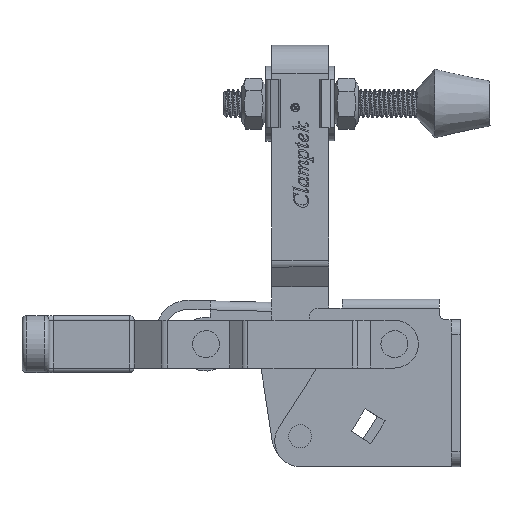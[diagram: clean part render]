
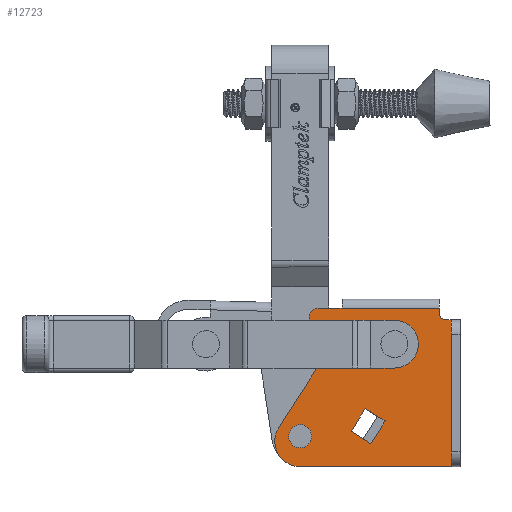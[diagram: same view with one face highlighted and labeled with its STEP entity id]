
A CAD part, left-side view. The second image highlights one B-rep face of the part: STEP entity #12723.
In plain terms, the highlighted planar face has unit normal (-1, 0, 0).
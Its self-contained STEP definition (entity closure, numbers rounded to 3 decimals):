
#942=FACE_BOUND('',#2411,.T.);
#943=FACE_BOUND('',#2412,.T.);
#944=FACE_BOUND('',#2413,.T.);
#1165=PLANE('',#13605);
#1682=FACE_OUTER_BOUND('',#2410,.T.);
#2410=EDGE_LOOP('',(#10692,#10693,#10694,#10695,#10696,#10697,#10698,#10699,
#10700,#10701,#10702,#10703));
#2411=EDGE_LOOP('',(#10704,#10705,#10706,#10707,#10708,#10709));
#2412=EDGE_LOOP('',(#10710,#10711));
#2413=EDGE_LOOP('',(#10712,#10713));
#3415=LINE('',#27744,#4452);
#3427=LINE('',#27779,#4464);
#3428=LINE('',#27780,#4465);
#3429=LINE('',#27782,#4466);
#3430=LINE('',#27786,#4467);
#3431=LINE('',#27790,#4468);
#3432=LINE('',#27793,#4469);
#3433=LINE('',#27795,#4470);
#3434=LINE('',#27799,#4471);
#3435=LINE('',#27801,#4472);
#3436=LINE('',#27803,#4473);
#3437=LINE('',#27805,#4474);
#3438=LINE('',#27807,#4475);
#3439=LINE('',#27808,#4476);
#4452=VECTOR('',#15575,1000.);
#4464=VECTOR('',#15605,1000.);
#4465=VECTOR('',#15606,1000.);
#4466=VECTOR('',#15607,1000.);
#4467=VECTOR('',#15610,1000.);
#4468=VECTOR('',#15613,1000.);
#4469=VECTOR('',#15616,1000.);
#4470=VECTOR('',#15617,1000.);
#4471=VECTOR('',#15620,1000.);
#4472=VECTOR('',#15621,1000.);
#4473=VECTOR('',#15622,1000.);
#4474=VECTOR('',#15623,1000.);
#4475=VECTOR('',#15624,1000.);
#4476=VECTOR('',#15625,1000.);
#4900=CIRCLE('',#13570,4.75);
#4901=CIRCLE('',#13571,4.75);
#4908=CIRCLE('',#13580,3.2);
#4909=CIRCLE('',#13581,3.2);
#4926=CIRCLE('',#13606,3.);
#4927=CIRCLE('',#13607,8.5);
#4928=CIRCLE('',#13608,8.5);
#4929=CIRCLE('',#13609,2.);
#5926=VERTEX_POINT('',#27647);
#5927=VERTEX_POINT('',#27648);
#5934=VERTEX_POINT('',#27667);
#5935=VERTEX_POINT('',#27668);
#5968=VERTEX_POINT('',#27741);
#5969=VERTEX_POINT('',#27743);
#5981=VERTEX_POINT('',#27773);
#5982=VERTEX_POINT('',#27777);
#5983=VERTEX_POINT('',#27778);
#5984=VERTEX_POINT('',#27781);
#5985=VERTEX_POINT('',#27783);
#5986=VERTEX_POINT('',#27785);
#5987=VERTEX_POINT('',#27787);
#5988=VERTEX_POINT('',#27789);
#5989=VERTEX_POINT('',#27792);
#5990=VERTEX_POINT('',#27794);
#5991=VERTEX_POINT('',#27797);
#5992=VERTEX_POINT('',#27798);
#5993=VERTEX_POINT('',#27800);
#5994=VERTEX_POINT('',#27802);
#5995=VERTEX_POINT('',#27804);
#5996=VERTEX_POINT('',#27806);
#7575=EDGE_CURVE('',#5926,#5927,#4900,.T.);
#7576=EDGE_CURVE('',#5927,#5926,#4901,.T.);
#7585=EDGE_CURVE('',#5934,#5935,#4908,.T.);
#7586=EDGE_CURVE('',#5935,#5934,#4909,.T.);
#7622=EDGE_CURVE('',#5969,#5968,#3415,.T.);
#7639=EDGE_CURVE('',#5982,#5983,#3427,.T.);
#7640=EDGE_CURVE('',#5983,#5981,#3428,.T.);
#7641=EDGE_CURVE('',#5981,#5984,#3429,.T.);
#7642=EDGE_CURVE('',#5984,#5985,#4926,.T.);
#7643=EDGE_CURVE('',#5985,#5986,#3430,.T.);
#7644=EDGE_CURVE('',#5986,#5987,#4927,.T.);
#7645=EDGE_CURVE('',#5987,#5988,#3431,.T.);
#7646=EDGE_CURVE('',#5988,#5969,#4928,.T.);
#7647=EDGE_CURVE('',#5989,#5968,#3432,.T.);
#7648=EDGE_CURVE('',#5989,#5990,#3433,.T.);
#7649=EDGE_CURVE('',#5990,#5982,#4929,.T.);
#7650=EDGE_CURVE('',#5991,#5992,#3434,.T.);
#7651=EDGE_CURVE('',#5992,#5993,#3435,.T.);
#7652=EDGE_CURVE('',#5993,#5994,#3436,.T.);
#7653=EDGE_CURVE('',#5994,#5995,#3437,.T.);
#7654=EDGE_CURVE('',#5995,#5996,#3438,.T.);
#7655=EDGE_CURVE('',#5996,#5991,#3439,.T.);
#10692=ORIENTED_EDGE('',*,*,#7639,.T.);
#10693=ORIENTED_EDGE('',*,*,#7640,.T.);
#10694=ORIENTED_EDGE('',*,*,#7641,.T.);
#10695=ORIENTED_EDGE('',*,*,#7642,.T.);
#10696=ORIENTED_EDGE('',*,*,#7643,.T.);
#10697=ORIENTED_EDGE('',*,*,#7644,.T.);
#10698=ORIENTED_EDGE('',*,*,#7645,.T.);
#10699=ORIENTED_EDGE('',*,*,#7646,.T.);
#10700=ORIENTED_EDGE('',*,*,#7622,.T.);
#10701=ORIENTED_EDGE('',*,*,#7647,.F.);
#10702=ORIENTED_EDGE('',*,*,#7648,.T.);
#10703=ORIENTED_EDGE('',*,*,#7649,.T.);
#10704=ORIENTED_EDGE('',*,*,#7650,.T.);
#10705=ORIENTED_EDGE('',*,*,#7651,.T.);
#10706=ORIENTED_EDGE('',*,*,#7652,.T.);
#10707=ORIENTED_EDGE('',*,*,#7653,.T.);
#10708=ORIENTED_EDGE('',*,*,#7654,.T.);
#10709=ORIENTED_EDGE('',*,*,#7655,.T.);
#10710=ORIENTED_EDGE('',*,*,#7575,.T.);
#10711=ORIENTED_EDGE('',*,*,#7576,.T.);
#10712=ORIENTED_EDGE('',*,*,#7585,.T.);
#10713=ORIENTED_EDGE('',*,*,#7586,.T.);
#12723=ADVANCED_FACE('',(#1682,#942,#943,#944),#1165,.F.);
#13570=AXIS2_PLACEMENT_3D('',#27649,#15495,#15496);
#13571=AXIS2_PLACEMENT_3D('',#27650,#15497,#15498);
#13580=AXIS2_PLACEMENT_3D('',#27669,#15517,#15518);
#13581=AXIS2_PLACEMENT_3D('',#27670,#15519,#15520);
#13605=AXIS2_PLACEMENT_3D('',#27776,#15603,#15604);
#13606=AXIS2_PLACEMENT_3D('',#27784,#15608,#15609);
#13607=AXIS2_PLACEMENT_3D('',#27788,#15611,#15612);
#13608=AXIS2_PLACEMENT_3D('',#27791,#15614,#15615);
#13609=AXIS2_PLACEMENT_3D('',#27796,#15618,#15619);
#15495=DIRECTION('center_axis',(1.,0.,0.));
#15496=DIRECTION('ref_axis',(0.,0.,-1.));
#15497=DIRECTION('center_axis',(1.,0.,0.));
#15498=DIRECTION('ref_axis',(0.,0.,-1.));
#15517=DIRECTION('center_axis',(1.,0.,0.));
#15518=DIRECTION('ref_axis',(0.,0.,-1.));
#15519=DIRECTION('center_axis',(1.,0.,0.));
#15520=DIRECTION('ref_axis',(0.,0.,-1.));
#15575=DIRECTION('',(0.,-1.,0.));
#15603=DIRECTION('center_axis',(1.,0.,0.));
#15604=DIRECTION('ref_axis',(0.,0.,-1.));
#15605=DIRECTION('',(0.,0.,1.));
#15606=DIRECTION('',(0.,1.,0.));
#15607=DIRECTION('',(0.,1.,0.));
#15608=DIRECTION('center_axis',(-1.,0.,0.));
#15609=DIRECTION('ref_axis',(0.,0.,-1.));
#15610=DIRECTION('',(0.,-0.76,-0.65));
#15611=DIRECTION('center_axis',(1.,0.,0.));
#15612=DIRECTION('ref_axis',(0.,0.,-1.));
#15613=DIRECTION('',(0.,0.54,-0.842));
#15614=DIRECTION('center_axis',(-1.,0.,0.));
#15615=DIRECTION('ref_axis',(0.,0.,-1.));
#15616=DIRECTION('',(0.,0.,-1.));
#15617=DIRECTION('',(0.,1.,0.));
#15618=DIRECTION('center_axis',(1.,0.,0.));
#15619=DIRECTION('ref_axis',(0.,0.,-1.));
#15620=DIRECTION('',(0.,0.53,-0.848));
#15621=DIRECTION('',(0.,0.848,0.53));
#15622=DIRECTION('',(0.,0.848,0.53));
#15623=DIRECTION('',(0.,-0.53,0.848));
#15624=DIRECTION('',(0.,-0.848,-0.53));
#15625=DIRECTION('',(0.,-0.869,-0.495));
#27647=CARTESIAN_POINT('',(-7.,22.,36.25));
#27648=CARTESIAN_POINT('',(-7.,22.,45.75));
#27649=CARTESIAN_POINT('Origin',(-7.,22.,41.));
#27650=CARTESIAN_POINT('Origin',(-7.,22.,41.));
#27667=CARTESIAN_POINT('',(-7.,53.5,7.));
#27668=CARTESIAN_POINT('',(-7.,53.5,13.4));
#27669=CARTESIAN_POINT('Origin',(-7.,53.5,10.2));
#27670=CARTESIAN_POINT('Origin',(-7.,53.5,10.2));
#27741=CARTESIAN_POINT('',(-7.,3.,0.));
#27743=CARTESIAN_POINT('',(-7.,53.5,0.));
#27744=CARTESIAN_POINT('',(-7.,3.,0.));
#27773=CARTESIAN_POINT('',(-7.,39.5,53.));
#27776=CARTESIAN_POINT('Origin',(-7.,3.,56.));
#27777=CARTESIAN_POINT('',(-7.,7.,51.2));
#27778=CARTESIAN_POINT('',(-7.,7.,53.));
#27779=CARTESIAN_POINT('',(-7.,7.,56.));
#27780=CARTESIAN_POINT('',(-7.,39.5,53.));
#27781=CARTESIAN_POINT('',(-7.,47.5,53.));
#27782=CARTESIAN_POINT('',(-7.,3.,53.));
#27783=CARTESIAN_POINT('',(-7.,49.449,47.72));
#27784=CARTESIAN_POINT('Origin',(-7.,47.5,50.));
#27785=CARTESIAN_POINT('',(-7.,47.977,46.461));
#27786=CARTESIAN_POINT('',(-7.,26.699,28.274));
#27787=CARTESIAN_POINT('',(-7.,46.344,35.413));
#27788=CARTESIAN_POINT('Origin',(-7.,53.5,40.));
#27789=CARTESIAN_POINT('',(-7.,60.656,13.087));
#27790=CARTESIAN_POINT('',(-7.,24.366,69.697));
#27791=CARTESIAN_POINT('Origin',(-7.,53.5,8.5));
#27792=CARTESIAN_POINT('',(-7.,3.,49.2));
#27793=CARTESIAN_POINT('',(-7.,3.,56.));
#27794=CARTESIAN_POINT('',(-7.,5.,49.2));
#27795=CARTESIAN_POINT('',(-7.,3.,49.2));
#27796=CARTESIAN_POINT('Origin',(-7.,5.,51.2));
#27797=CARTESIAN_POINT('',(-7.,25.069,15.332));
#27798=CARTESIAN_POINT('',(-7.,29.839,7.7));
#27799=CARTESIAN_POINT('',(-7.,29.839,7.7));
#27800=CARTESIAN_POINT('',(-7.,32.383,9.29));
#27801=CARTESIAN_POINT('',(-7.,29.839,7.7));
#27802=CARTESIAN_POINT('',(-7.,36.447,11.829));
#27803=CARTESIAN_POINT('',(-7.,32.243,9.202));
#27804=CARTESIAN_POINT('',(-7.,31.743,19.357));
#27805=CARTESIAN_POINT('',(-7.,7.204,58.627));
#27806=CARTESIAN_POINT('',(-7.,27.679,16.818));
#27807=CARTESIAN_POINT('',(-7.,27.538,16.73));
#27808=CARTESIAN_POINT('',(-7.,25.069,15.332));
